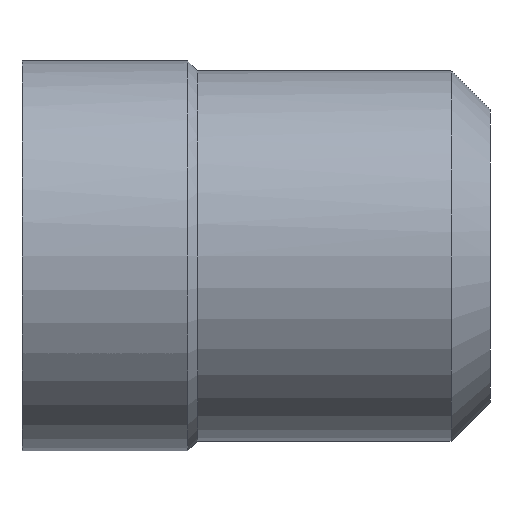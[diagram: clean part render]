
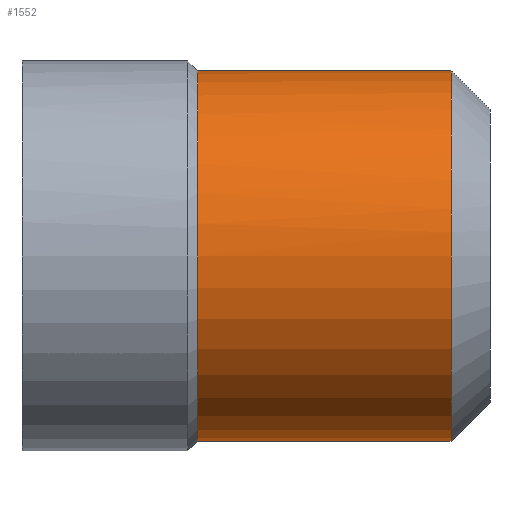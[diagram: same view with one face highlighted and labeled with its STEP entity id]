
A CAD part, front view. The second image highlights one B-rep face of the part: STEP entity #1552.
In plain terms, the highlighted cylindrical face has radius 4.75 mm (diameter 9.5 mm), a partial arc.
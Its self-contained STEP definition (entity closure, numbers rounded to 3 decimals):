
#1382=CARTESIAN_POINT('Vertex',(4.5,0.,4.75)) ;
#1396=CARTESIAN_POINT('Vertex',(4.5,0.,-4.75)) ;
#1418=CARTESIAN_POINT('Axis2P3D Location',(4.5,0.,0.)) ;
#1422=CARTESIAN_POINT('Vertex',(4.5,-4.75,0.)) ;
#1425=CARTESIAN_POINT('Axis2P3D Location',(4.5,0.,0.)) ;
#1486=CARTESIAN_POINT('Line Origine',(4.564,0.,-4.75)) ;
#1490=CARTESIAN_POINT('Vertex',(11.,0.,-4.75)) ;
#1493=CARTESIAN_POINT('Line Origine',(4.564,0.,4.75)) ;
#1497=CARTESIAN_POINT('Vertex',(11.,0.,4.75)) ;
#1524=CARTESIAN_POINT('Axis2P3D Location',(4.564,0.,0.)) ;
#1529=CARTESIAN_POINT('Axis2P3D Location',(11.,0.,0.)) ;
#1533=CARTESIAN_POINT('Vertex',(11.,-4.75,0.)) ;
#1537=CARTESIAN_POINT('Control Point',(11.,0.,4.75)) ;
#1538=CARTESIAN_POINT('Control Point',(11.,-1.492,4.75)) ;
#1539=CARTESIAN_POINT('Control Point',(11.,-2.986,4.166)) ;
#1540=CARTESIAN_POINT('Control Point',(11.,-4.166,2.986)) ;
#1541=CARTESIAN_POINT('Control Point',(11.,-4.75,1.492)) ;
#1542=CARTESIAN_POINT('Control Point',(11.,-4.75,0.)) ;
#1419=DIRECTION('Axis2P3D Direction',(-1.,0.,0.)) ;
#1426=DIRECTION('Axis2P3D Direction',(-1.,0.,0.)) ;
#1487=DIRECTION('Vector Direction',(-1.,0.,0.)) ;
#1494=DIRECTION('Vector Direction',(-1.,0.,0.)) ;
#1525=DIRECTION('Axis2P3D Direction',(-1.,-0.,-0.)) ;
#1526=DIRECTION('Axis2P3D XDirection',(0.,0.,-1.)) ;
#1530=DIRECTION('Axis2P3D Direction',(-1.,-0.,-0.)) ;
#1420=AXIS2_PLACEMENT_3D('Circle Axis2P3D',#1418,#1419,$) ;
#1427=AXIS2_PLACEMENT_3D('Circle Axis2P3D',#1425,#1426,$) ;
#1527=AXIS2_PLACEMENT_3D('Cylinder Axis2P3D',#1524,#1525,#1526) ;
#1531=AXIS2_PLACEMENT_3D('Circle Axis2P3D',#1529,#1530,$) ;
#1545=ORIENTED_EDGE('',*,*,#1499,.T.) ;
#1546=ORIENTED_EDGE('',*,*,#1429,.T.) ;
#1547=ORIENTED_EDGE('',*,*,#1424,.T.) ;
#1548=ORIENTED_EDGE('',*,*,#1492,.T.) ;
#1549=ORIENTED_EDGE('',*,*,#1535,.F.) ;
#1550=ORIENTED_EDGE('',*,*,#1543,.F.) ;
#1488=VECTOR('Line Direction',#1487,1.) ;
#1495=VECTOR('Line Direction',#1494,1.) ;
#1552=ADVANCED_FACE('MN10',(#1551),#1528,.T.) ;
#1536=B_SPLINE_CURVE_WITH_KNOTS('',5,(#1537,#1538,#1539,#1540,#1541,#1542),.UNSPECIFIED.,.F.,.U.,(6,6),(-3.731,3.731),.UNSPECIFIED.) ;
#1421=CIRCLE('generated circle',#1420,4.75) ;
#1428=CIRCLE('generated circle',#1427,4.75) ;
#1532=CIRCLE('generated circle',#1531,4.75) ;
#1528=CYLINDRICAL_SURFACE('generated cylinder',#1527,4.75) ;
#1424=EDGE_CURVE('',#1423,#1397,#1421,.F.) ;
#1429=EDGE_CURVE('',#1383,#1423,#1428,.F.) ;
#1492=EDGE_CURVE('',#1397,#1491,#1489,.F.) ;
#1499=EDGE_CURVE('',#1498,#1383,#1496,.T.) ;
#1535=EDGE_CURVE('',#1534,#1491,#1532,.F.) ;
#1543=EDGE_CURVE('',#1498,#1534,#1536,.T.) ;
#1544=EDGE_LOOP('',(#1545,#1546,#1547,#1548,#1549,#1550)) ;
#1551=FACE_OUTER_BOUND('',#1544,.T.) ;
#1489=LINE('Line',#1486,#1488) ;
#1496=LINE('Line',#1493,#1495) ;
#1383=VERTEX_POINT('',#1382) ;
#1397=VERTEX_POINT('',#1396) ;
#1423=VERTEX_POINT('',#1422) ;
#1491=VERTEX_POINT('',#1490) ;
#1498=VERTEX_POINT('',#1497) ;
#1534=VERTEX_POINT('',#1533) ;
